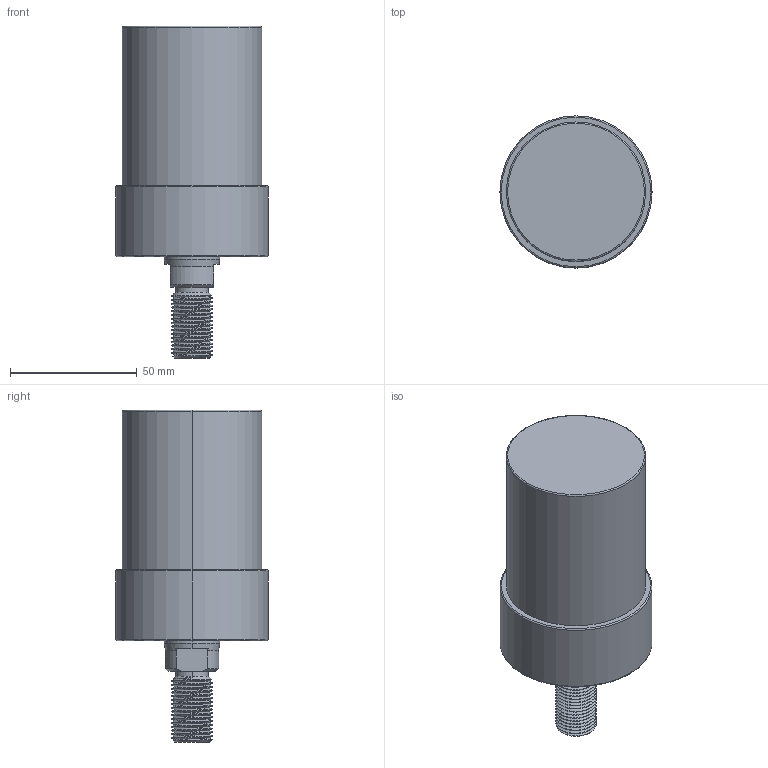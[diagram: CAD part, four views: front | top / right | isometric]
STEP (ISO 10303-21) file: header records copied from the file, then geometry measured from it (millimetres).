
FILE_DESCRIPTION (( 'STEP AP203' ), '1' );
FILE_NAME ('CLLU-055GT-050.STEP', '2020-01-16T00:44:30', ( '' ), ( '' ), 'SwSTEP 2.0', 'SolidWorks 2015', '' );
FILE_SCHEMA (( 'CONFIG_CONTROL_DESIGN' ));
Length unit declared in the file: millimetre
Products named in the file (1): CLLU-055GT-050
Bounding box: 60 x 60 x 131 mm (x, y, z)
Volume: 236128.8 mm3; surface area: 25863.4 mm2
Topology: 1 solids, 1 shells, 101 faces, 253 edges, 155 vertices
Faces by surface type: cylinder 55, cone 26, plane 12, torus 6, bspline 2
Entity records: 4860 total; most frequent: CARTESIAN_POINT 2590, ORIENTED_EDGE 490, DIRECTION 438, EDGE_CURVE 245, AXIS2_PLACEMENT_3D 176, VERTEX_POINT 155, EDGE_LOOP 110, ADVANCED_FACE 101
